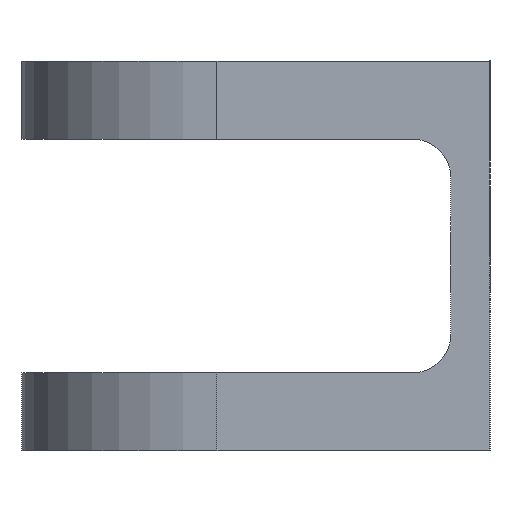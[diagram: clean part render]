
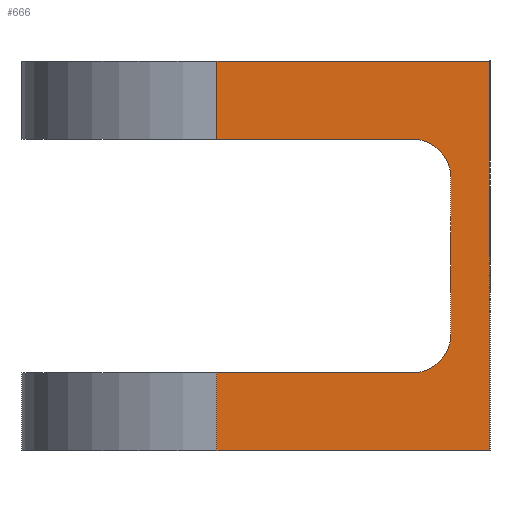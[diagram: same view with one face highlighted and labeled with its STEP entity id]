
A CAD part, left-side view. The second image highlights one B-rep face of the part: STEP entity #666.
In plain terms, the highlighted planar face has unit normal (-1, 0, 0).
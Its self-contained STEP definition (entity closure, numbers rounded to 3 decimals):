
#77=CIRCLE('',#718,5.);
#78=CIRCLE('',#719,5.);
#155=ORIENTED_EDGE('',*,*,#323,.F.);
#156=ORIENTED_EDGE('',*,*,#324,.T.);
#157=ORIENTED_EDGE('',*,*,#325,.T.);
#158=ORIENTED_EDGE('',*,*,#326,.T.);
#159=ORIENTED_EDGE('',*,*,#327,.F.);
#160=ORIENTED_EDGE('',*,*,#328,.F.);
#161=ORIENTED_EDGE('',*,*,#329,.T.);
#162=ORIENTED_EDGE('',*,*,#330,.T.);
#163=ORIENTED_EDGE('',*,*,#331,.T.);
#164=ORIENTED_EDGE('',*,*,#332,.T.);
#323=EDGE_CURVE('',#405,#406,#463,.T.);
#324=EDGE_CURVE('',#405,#407,#77,.F.);
#325=EDGE_CURVE('',#407,#408,#464,.T.);
#326=EDGE_CURVE('',#408,#409,#465,.T.);
#327=EDGE_CURVE('',#410,#409,#466,.T.);
#328=EDGE_CURVE('',#411,#410,#467,.T.);
#329=EDGE_CURVE('',#411,#412,#468,.T.);
#330=EDGE_CURVE('',#412,#413,#469,.T.);
#331=EDGE_CURVE('',#413,#414,#470,.T.);
#332=EDGE_CURVE('',#414,#406,#78,.F.);
#405=VERTEX_POINT('',#1058);
#406=VERTEX_POINT('',#1059);
#407=VERTEX_POINT('',#1061);
#408=VERTEX_POINT('',#1063);
#409=VERTEX_POINT('',#1065);
#410=VERTEX_POINT('',#1067);
#411=VERTEX_POINT('',#1069);
#412=VERTEX_POINT('',#1071);
#413=VERTEX_POINT('',#1073);
#414=VERTEX_POINT('',#1075);
#463=LINE('',#1057,#521);
#464=LINE('',#1062,#522);
#465=LINE('',#1064,#523);
#466=LINE('',#1066,#524);
#467=LINE('',#1068,#525);
#468=LINE('',#1070,#526);
#469=LINE('',#1072,#527);
#470=LINE('',#1074,#528);
#521=VECTOR('',#844,1000.);
#522=VECTOR('',#847,1000.);
#523=VECTOR('',#848,1000.);
#524=VECTOR('',#849,1000.);
#525=VECTOR('',#850,1000.);
#526=VECTOR('',#851,1000.);
#527=VECTOR('',#852,1000.);
#528=VECTOR('',#853,1000.);
#556=EDGE_LOOP('',(#155,#156,#157,#158,#159,#160,#161,#162,#163,#164));
#602=FACE_BOUND('',#556,.T.);
#646=PLANE('',#717);
#666=ADVANCED_FACE('',(#602),#646,.T.);
#717=AXIS2_PLACEMENT_3D('',#1056,#842,#843);
#718=AXIS2_PLACEMENT_3D('',#1060,#845,#846);
#719=AXIS2_PLACEMENT_3D('',#1076,#854,#855);
#842=DIRECTION('',(-1.,0.,0.));
#843=DIRECTION('',(0.,0.,1.));
#844=DIRECTION('',(0.,0.,1.));
#845=DIRECTION('',(-1.,0.,0.));
#846=DIRECTION('',(0.,0.,1.));
#847=DIRECTION('',(0.,1.,0.));
#848=DIRECTION('',(0.,0.,-1.));
#849=DIRECTION('',(0.,1.,0.));
#850=DIRECTION('',(0.,0.,-1.));
#851=DIRECTION('',(0.,1.,0.));
#852=DIRECTION('',(0.,0.,-1.));
#853=DIRECTION('',(0.,-1.,0.));
#854=DIRECTION('',(-1.,0.,0.));
#855=DIRECTION('',(0.,0.,1.));
#1056=CARTESIAN_POINT('',(0.,0.,50.));
#1057=CARTESIAN_POINT('',(0.,5.,50.));
#1058=CARTESIAN_POINT('',(0.,5.,15.));
#1059=CARTESIAN_POINT('',(0.,5.,35.));
#1060=CARTESIAN_POINT('',(0.,10.,15.));
#1061=CARTESIAN_POINT('',(0.,10.,10.));
#1062=CARTESIAN_POINT('',(0.,0.,10.));
#1063=CARTESIAN_POINT('',(0.,35.,10.));
#1064=CARTESIAN_POINT('',(0.,35.,50.));
#1065=CARTESIAN_POINT('',(0.,35.,0.));
#1066=CARTESIAN_POINT('',(0.,0.,0.));
#1067=CARTESIAN_POINT('',(0.,0.,0.));
#1068=CARTESIAN_POINT('',(0.,0.,50.));
#1069=CARTESIAN_POINT('',(0.,0.,50.));
#1070=CARTESIAN_POINT('',(0.,0.,50.));
#1071=CARTESIAN_POINT('',(0.,35.,50.));
#1072=CARTESIAN_POINT('',(0.,35.,50.));
#1073=CARTESIAN_POINT('',(0.,35.,40.));
#1074=CARTESIAN_POINT('',(0.,0.,40.));
#1075=CARTESIAN_POINT('',(0.,10.,40.));
#1076=CARTESIAN_POINT('',(0.,10.,35.));
